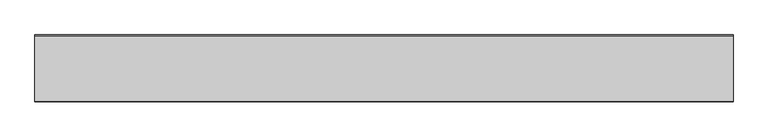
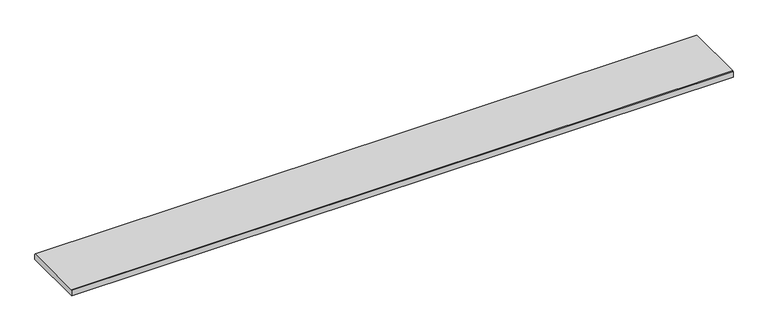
"""IFC4 building model written with IfcOpenShell, lengths in millimetres: proxy geometry."""

from ifc_helpers import new_model, si_unit, frame, origin, place, context, project, spatial, polyline, outline, extrude, source, transform, mapped, element, save


def generic_models_6c4eb595(model_context):
    return source(origin(), model_context, "Body", "SweptSolid", [
        extrude(outline(polyline([(0.0, 20.868936), (2.245064, 23.114), (231.688936, 23.114), (233.934, 20.868936), (233.934, 0.0), (0.0, 0.0), (0.0, 20.868936)])), frame((0.0, 0.0, 0.0), z_axis=(1.0, 0.0, 0.0), x_axis=(0.0, 1.0, 0.0)), (0.0, 0.0, 1.0), 2438.4),
    ])


if __name__ == "__main__":
    model = new_model("IFC4")
    model_context = context("Model", 3, world=origin())
    ifc_project = project(units=[si_unit("LENGTHUNIT", "METRE", prefix="MILLI")], contexts=[model_context])
    site = spatial("IfcSite", under=ifc_project)
    building = spatial("IfcBuilding", under=site)
    placement = place(None, origin())
    generic_models_shape = generic_models_6c4eb595(model_context)
    element("IfcBuildingElementProxy", 1, Name="540 Series Reversible Trim (Fiber) : 540 Series Reversible Trim (Fiber) - 9.21\"", ObjectType="540 Series Reversible Trim (Fiber) : 540 Series Reversible Trim (Fiber) - 9.21\"", at=placement, inside=building, context=model_context, shape_type="MappedRepresentation", body=[
        mapped(generic_models_shape, transform((0.0, 0.0, 0.0), x_axis=(1.0, 0.0, 0.0), y_axis=(0.0, 1.0, 0.0), z_axis=(0.0, 0.0, 1.0))),
    ])
    save(model, "model.ifc")
